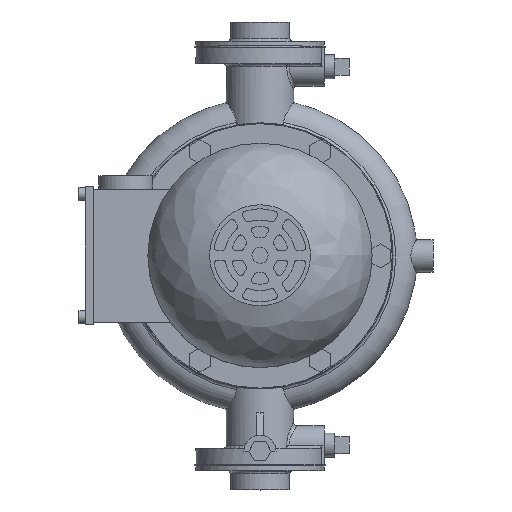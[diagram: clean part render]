
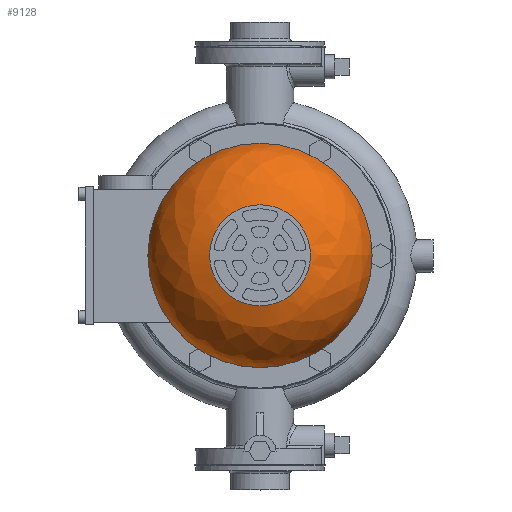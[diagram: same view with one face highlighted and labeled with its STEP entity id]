
A CAD part, top view. The second image highlights one B-rep face of the part: STEP entity #9128.
In plain terms, the highlighted free-form (B-spline) face has degree [2, 2] with [3, 9] control points.
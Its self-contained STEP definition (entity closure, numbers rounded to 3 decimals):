
#80=(
BOUNDED_SURFACE()
B_SPLINE_SURFACE(2,2,((#14596,#14597,#14598,#14599,#14600,#14601,#14602,
#14603,#14604),(#14605,#14606,#14607,#14608,#14609,#14610,#14611,#14612,
#14613),(#14614,#14615,#14616,#14617,#14618,#14619,#14620,#14621,#14622)),
 .UNSPECIFIED.,.F.,.T.,.F.)
B_SPLINE_SURFACE_WITH_KNOTS((3,3),(3,2,2,2,3),(-1.342,-0.193),
(-3.142,-1.571,0.,1.571,3.142),
 .UNSPECIFIED.)
GEOMETRIC_REPRESENTATION_ITEM()
RATIONAL_B_SPLINE_SURFACE(((1.,0.707,1.,0.707,1.,
0.707,1.,0.707,1.),(0.839,0.594,
0.839,0.594,0.839,0.594,
0.839,0.594,0.839),(1.,0.707,
1.,0.707,1.,0.707,1.,0.707,1.)))
REPRESENTATION_ITEM('')
SURFACE()
);
#148=(
BOUNDED_CURVE()
B_SPLINE_CURVE(2,(#14627,#14628,#14629),.UNSPECIFIED.,.F.,.F.)
B_SPLINE_CURVE_WITH_KNOTS((3,3),(0.193,1.342),
 .UNSPECIFIED.)
CURVE()
GEOMETRIC_REPRESENTATION_ITEM()
RATIONAL_B_SPLINE_CURVE((1.,0.839,1.))
REPRESENTATION_ITEM('')
);
#2655=FACE_OUTER_BOUND('',#3206,.T.);
#3206=EDGE_LOOP('',(#7335,#7336,#7337,#7338,#7339,#7340));
#3821=CIRCLE('',#9871,31.5);
#3822=CIRCLE('',#9872,31.5);
#3823=CIRCLE('',#9873,70.);
#3824=CIRCLE('',#9874,70.);
#4543=VERTEX_POINT('',#14592);
#4544=VERTEX_POINT('',#14593);
#4545=VERTEX_POINT('',#14623);
#4546=VERTEX_POINT('',#14624);
#5584=EDGE_CURVE('',#4543,#4544,#3821,.T.);
#5585=EDGE_CURVE('',#4544,#4543,#3822,.T.);
#5586=EDGE_CURVE('',#4545,#4546,#3823,.T.);
#5587=EDGE_CURVE('',#4546,#4545,#3824,.T.);
#5588=EDGE_CURVE('',#4546,#4544,#148,.T.);
#7335=ORIENTED_EDGE('',*,*,#5586,.F.);
#7336=ORIENTED_EDGE('',*,*,#5587,.F.);
#7337=ORIENTED_EDGE('',*,*,#5588,.T.);
#7338=ORIENTED_EDGE('',*,*,#5585,.T.);
#7339=ORIENTED_EDGE('',*,*,#5584,.T.);
#7340=ORIENTED_EDGE('',*,*,#5588,.F.);
#9128=ADVANCED_FACE('',(#2655),#80,.F.);
#9871=AXIS2_PLACEMENT_3D('',#14594,#11637,#11638);
#9872=AXIS2_PLACEMENT_3D('',#14595,#11639,#11640);
#9873=AXIS2_PLACEMENT_3D('',#14625,#11641,#11642);
#9874=AXIS2_PLACEMENT_3D('',#14626,#11643,#11644);
#11637=DIRECTION('center_axis',(0.,0.,-1.));
#11638=DIRECTION('ref_axis',(1.,0.,0.));
#11639=DIRECTION('center_axis',(0.,0.,-1.));
#11640=DIRECTION('ref_axis',(1.,0.,0.));
#11641=DIRECTION('center_axis',(0.,0.,-1.));
#11642=DIRECTION('ref_axis',(1.,0.,0.));
#11643=DIRECTION('center_axis',(0.,0.,-1.));
#11644=DIRECTION('ref_axis',(1.,0.,0.));
#14592=CARTESIAN_POINT('',(0.,31.5,261.));
#14593=CARTESIAN_POINT('',(31.5,0.,261.));
#14594=CARTESIAN_POINT('Origin',(0.,0.,261.));
#14595=CARTESIAN_POINT('Origin',(0.,0.,261.));
#14596=CARTESIAN_POINT('Ctrl Pts',(31.5,0.,261.));
#14597=CARTESIAN_POINT('Ctrl Pts',(31.5,-31.5,261.));
#14598=CARTESIAN_POINT('Ctrl Pts',(0.,-31.5,261.));
#14599=CARTESIAN_POINT('Ctrl Pts',(-31.5,-31.5,261.));
#14600=CARTESIAN_POINT('Ctrl Pts',(-31.5,0.,261.));
#14601=CARTESIAN_POINT('Ctrl Pts',(-31.5,31.5,261.));
#14602=CARTESIAN_POINT('Ctrl Pts',(0.,31.5,261.));
#14603=CARTESIAN_POINT('Ctrl Pts',(31.5,31.5,261.));
#14604=CARTESIAN_POINT('Ctrl Pts',(31.5,0.,261.));
#14605=CARTESIAN_POINT('Ctrl Pts',(63.67,0.,
253.517));
#14606=CARTESIAN_POINT('Ctrl Pts',(63.67,-63.67,253.517));
#14607=CARTESIAN_POINT('Ctrl Pts',(0.,-63.67,253.517));
#14608=CARTESIAN_POINT('Ctrl Pts',(-63.67,-63.67,253.517));
#14609=CARTESIAN_POINT('Ctrl Pts',(-63.67,0.,
253.517));
#14610=CARTESIAN_POINT('Ctrl Pts',(-63.67,63.67,253.517));
#14611=CARTESIAN_POINT('Ctrl Pts',(0.,63.67,253.517));
#14612=CARTESIAN_POINT('Ctrl Pts',(63.67,63.67,253.517));
#14613=CARTESIAN_POINT('Ctrl Pts',(63.67,0.,
253.517));
#14614=CARTESIAN_POINT('Ctrl Pts',(70.,0.,221.1));
#14615=CARTESIAN_POINT('Ctrl Pts',(70.,-70.,221.1));
#14616=CARTESIAN_POINT('Ctrl Pts',(0.,-70.,221.1));
#14617=CARTESIAN_POINT('Ctrl Pts',(-70.,-70.,221.1));
#14618=CARTESIAN_POINT('Ctrl Pts',(-70.,0.,221.1));
#14619=CARTESIAN_POINT('Ctrl Pts',(-70.,70.,221.1));
#14620=CARTESIAN_POINT('Ctrl Pts',(0.,70.,221.1));
#14621=CARTESIAN_POINT('Ctrl Pts',(70.,70.,221.1));
#14622=CARTESIAN_POINT('Ctrl Pts',(70.,0.,221.1));
#14623=CARTESIAN_POINT('',(0.,70.,221.1));
#14624=CARTESIAN_POINT('',(70.,0.,221.1));
#14625=CARTESIAN_POINT('Origin',(0.,0.,221.1));
#14626=CARTESIAN_POINT('Origin',(0.,0.,221.1));
#14627=CARTESIAN_POINT('Ctrl Pts',(70.,0.,221.1));
#14628=CARTESIAN_POINT('Ctrl Pts',(63.67,0.,
253.517));
#14629=CARTESIAN_POINT('Ctrl Pts',(31.5,0.,261.));
